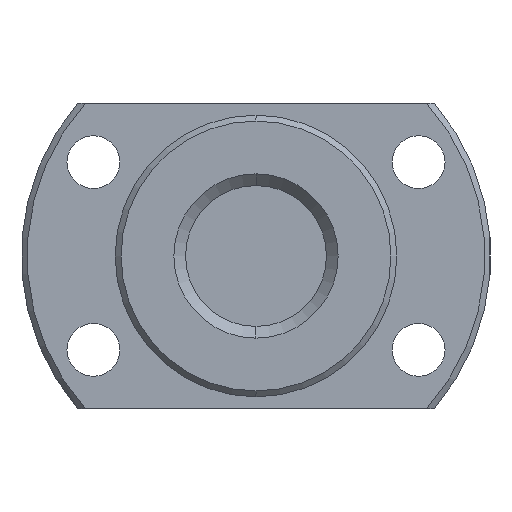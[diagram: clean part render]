
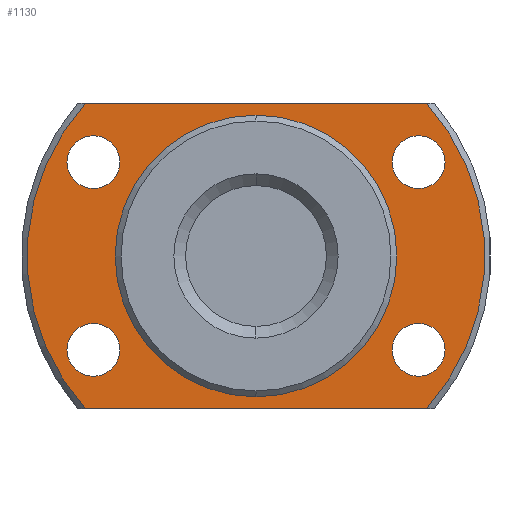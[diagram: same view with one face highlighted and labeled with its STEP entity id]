
A CAD part, left-side view. The second image highlights one B-rep face of the part: STEP entity #1130.
In plain terms, the highlighted planar face has unit normal (-1, 0, 0) as drawn and (1, 0, 0) by its records, which use the part's own axes.
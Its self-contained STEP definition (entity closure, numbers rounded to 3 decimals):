
#4 = CARTESIAN_POINT ( 'NONE',  ( 8., 12., 13. ) ) ;
#9 = EDGE_CURVE ( 'NONE', #1319, #1489, #1137, .T. ) ;
#21 = ORIENTED_EDGE ( 'NONE', *, *, #217, .T. ) ;
#28 = CIRCLE ( 'NONE', #780, 19.5 ) ;
#54 = CIRCLE ( 'NONE', #638, 2.25 ) ;
#98 = EDGE_CURVE ( 'NONE', #250, #1386, #937, .T. ) ;
#102 = DIRECTION ( 'NONE',  ( 0., 0., -1. ) ) ;
#142 = EDGE_CURVE ( 'NONE', #185, #614, #642, .T. ) ;
#149 = CARTESIAN_POINT ( 'NONE',  ( 8., 13.856, 8. ) ) ;
#163 = PLANE ( 'NONE',  #193 ) ;
#164 = EDGE_CURVE ( 'NONE', #918, #496, #1425, .T. ) ;
#167 = VERTEX_POINT ( 'NONE', #1632 ) ;
#178 = EDGE_LOOP ( 'NONE', ( #747, #579 ) ) ;
#185 = VERTEX_POINT ( 'NONE', #1244 ) ;
#193 = AXIS2_PLACEMENT_3D ( 'NONE', #1209, #1633, #1499 ) ;
#215 = DIRECTION ( 'NONE',  ( -1., 0., 0. ) ) ;
#217 = EDGE_CURVE ( 'NONE', #1386, #250, #1200, .T. ) ;
#239 = DIRECTION ( 'NONE',  ( -1., 0., 0. ) ) ;
#250 = VERTEX_POINT ( 'NONE', #756 ) ;
#254 = DIRECTION ( 'NONE',  ( 0., 0., -1. ) ) ;
#258 = DIRECTION ( 'NONE',  ( 0., -1., 0. ) ) ;
#290 = EDGE_CURVE ( 'NONE', #614, #185, #350, .T. ) ;
#307 = AXIS2_PLACEMENT_3D ( 'NONE', #149, #239, #1278 ) ;
#308 = DIRECTION ( 'NONE',  ( 0., 0., -1. ) ) ;
#334 = DIRECTION ( 'NONE',  ( 0., 0., -1. ) ) ;
#338 = DIRECTION ( 'NONE',  ( 0., 0., -1. ) ) ;
#350 = CIRCLE ( 'NONE', #1069, 12. ) ;
#353 = CARTESIAN_POINT ( 'NONE',  ( 8., -15.805, -6.875 ) ) ;
#355 = CARTESIAN_POINT ( 'NONE',  ( 8., 0., 0. ) ) ;
#356 = CARTESIAN_POINT ( 'NONE',  ( 8., -11.908, -9.125 ) ) ;
#362 = EDGE_CURVE ( 'NONE', #522, #167, #1152, .T. ) ;
#406 = CARTESIAN_POINT ( 'NONE',  ( 8., 11.908, 9.125 ) ) ;
#433 = DIRECTION ( 'NONE',  ( 0., 1., 0. ) ) ;
#435 = FACE_BOUND ( 'NONE', #1570, .T. ) ;
#446 = ORIENTED_EDGE ( 'NONE', *, *, #98, .T. ) ;
#463 = AXIS2_PLACEMENT_3D ( 'NONE', #492, #1535, #878 ) ;
#492 = CARTESIAN_POINT ( 'NONE',  ( 8., -13.856, 8. ) ) ;
#496 = VERTEX_POINT ( 'NONE', #957 ) ;
#502 = CARTESIAN_POINT ( 'NONE',  ( 8., -14.534, 13. ) ) ;
#506 = DIRECTION ( 'NONE',  ( 1., 0., 0. ) ) ;
#522 = VERTEX_POINT ( 'NONE', #1074 ) ;
#561 = AXIS2_PLACEMENT_3D ( 'NONE', #987, #215, #338 ) ;
#574 = AXIS2_PLACEMENT_3D ( 'NONE', #1690, #660, #1561 ) ;
#579 = ORIENTED_EDGE ( 'NONE', *, *, #9, .T. ) ;
#589 = ORIENTED_EDGE ( 'NONE', *, *, #1392, .T. ) ;
#606 = EDGE_LOOP ( 'NONE', ( #639, #737, #1686, #1268 ) ) ;
#613 = EDGE_CURVE ( 'NONE', #1217, #784, #669, .T. ) ;
#614 = VERTEX_POINT ( 'NONE', #716 ) ;
#638 = AXIS2_PLACEMENT_3D ( 'NONE', #1528, #885, #735 ) ;
#639 = ORIENTED_EDGE ( 'NONE', *, *, #362, .T. ) ;
#642 = CIRCLE ( 'NONE', #863, 12. ) ;
#660 = DIRECTION ( 'NONE',  ( 1., 0., 0. ) ) ;
#669 = CIRCLE ( 'NONE', #1497, 2.25 ) ;
#675 = EDGE_CURVE ( 'NONE', #893, #1260, #28, .T. ) ;
#716 = CARTESIAN_POINT ( 'NONE',  ( 8., 0., -12. ) ) ;
#729 = EDGE_LOOP ( 'NONE', ( #1572, #1429 ) ) ;
#734 = CARTESIAN_POINT ( 'NONE',  ( 8., 13.856, 8. ) ) ;
#735 = DIRECTION ( 'NONE',  ( 0., 0., -1. ) ) ;
#737 = ORIENTED_EDGE ( 'NONE', *, *, #1016, .T. ) ;
#747 = ORIENTED_EDGE ( 'NONE', *, *, #1312, .T. ) ;
#752 = EDGE_CURVE ( 'NONE', #496, #918, #1057, .T. ) ;
#756 = CARTESIAN_POINT ( 'NONE',  ( 8., -13.856, 10.25 ) ) ;
#780 = AXIS2_PLACEMENT_3D ( 'NONE', #1126, #1524, #334 ) ;
#784 = VERTEX_POINT ( 'NONE', #353 ) ;
#793 = DIRECTION ( 'NONE',  ( -1., 0., 0. ) ) ;
#803 = FACE_OUTER_BOUND ( 'NONE', #606, .T. ) ;
#816 = AXIS2_PLACEMENT_3D ( 'NONE', #734, #1251, #1363 ) ;
#863 = AXIS2_PLACEMENT_3D ( 'NONE', #355, #1235, #1402 ) ;
#878 = DIRECTION ( 'NONE',  ( 0., 0., -1. ) ) ;
#885 = DIRECTION ( 'NONE',  ( -1., 0., 0. ) ) ;
#893 = VERTEX_POINT ( 'NONE', #502 ) ;
#918 = VERTEX_POINT ( 'NONE', #406 ) ;
#919 = LINE ( 'NONE', #4, #1011 ) ;
#936 = LINE ( 'NONE', #1614, #1647 ) ;
#937 = CIRCLE ( 'NONE', #561, 2.25 ) ;
#957 = CARTESIAN_POINT ( 'NONE',  ( 8., 15.805, 6.875 ) ) ;
#987 = CARTESIAN_POINT ( 'NONE',  ( 8., -13.856, 8. ) ) ;
#1011 = VECTOR ( 'NONE', #258, 1000. ) ;
#1016 = EDGE_CURVE ( 'NONE', #167, #893, #919, .T. ) ;
#1053 = EDGE_LOOP ( 'NONE', ( #1589, #589 ) ) ;
#1057 = CIRCLE ( 'NONE', #307, 2.25 ) ;
#1069 = AXIS2_PLACEMENT_3D ( 'NONE', #1554, #506, #254 ) ;
#1074 = CARTESIAN_POINT ( 'NONE',  ( 8., 14.534, -13. ) ) ;
#1076 = DIRECTION ( 'NONE',  ( 0., 0., -1. ) ) ;
#1077 = FACE_BOUND ( 'NONE', #1689, .T. ) ;
#1107 = ORIENTED_EDGE ( 'NONE', *, *, #142, .F. ) ;
#1126 = CARTESIAN_POINT ( 'NONE',  ( 8., 0., 0. ) ) ;
#1130 = ADVANCED_FACE ( 'NONE', ( #803, #1077, #1345, #435, #1218, #1226 ), #163, .T. ) ;
#1137 = CIRCLE ( 'NONE', #1434, 2.25 ) ;
#1152 = CIRCLE ( 'NONE', #574, 19.5 ) ;
#1200 = CIRCLE ( 'NONE', #463, 2.25 ) ;
#1209 = CARTESIAN_POINT ( 'NONE',  ( 8., 12., 0. ) ) ;
#1211 = ORIENTED_EDGE ( 'NONE', *, *, #290, .F. ) ;
#1217 = VERTEX_POINT ( 'NONE', #356 ) ;
#1218 = FACE_BOUND ( 'NONE', #1053, .T. ) ;
#1224 = CARTESIAN_POINT ( 'NONE',  ( 8., 13.856, -5.75 ) ) ;
#1226 = FACE_BOUND ( 'NONE', #729, .T. ) ;
#1235 = DIRECTION ( 'NONE',  ( 1., 0., 0. ) ) ;
#1244 = CARTESIAN_POINT ( 'NONE',  ( 8., 0., 12. ) ) ;
#1245 = CARTESIAN_POINT ( 'NONE',  ( 8., -14.534, -13. ) ) ;
#1251 = DIRECTION ( 'NONE',  ( -1., 0., 0. ) ) ;
#1260 = VERTEX_POINT ( 'NONE', #1245 ) ;
#1268 = ORIENTED_EDGE ( 'NONE', *, *, #1532, .T. ) ;
#1278 = DIRECTION ( 'NONE',  ( 0., 0., -1. ) ) ;
#1312 = EDGE_CURVE ( 'NONE', #1489, #1319, #54, .T. ) ;
#1316 = CARTESIAN_POINT ( 'NONE',  ( 8., -13.856, 5.75 ) ) ;
#1319 = VERTEX_POINT ( 'NONE', #1394 ) ;
#1345 = FACE_BOUND ( 'NONE', #178, .T. ) ;
#1363 = DIRECTION ( 'NONE',  ( 0., 0., -1. ) ) ;
#1386 = VERTEX_POINT ( 'NONE', #1316 ) ;
#1392 = EDGE_CURVE ( 'NONE', #784, #1217, #1423, .T. ) ;
#1394 = CARTESIAN_POINT ( 'NONE',  ( 8., 13.856, -10.25 ) ) ;
#1402 = DIRECTION ( 'NONE',  ( 0., 0., -1. ) ) ;
#1423 = CIRCLE ( 'NONE', #1613, 2.25 ) ;
#1425 = CIRCLE ( 'NONE', #816, 2.25 ) ;
#1429 = ORIENTED_EDGE ( 'NONE', *, *, #752, .T. ) ;
#1434 = AXIS2_PLACEMENT_3D ( 'NONE', #1606, #1479, #1076 ) ;
#1479 = DIRECTION ( 'NONE',  ( -1., 0., 0. ) ) ;
#1489 = VERTEX_POINT ( 'NONE', #1224 ) ;
#1495 = CARTESIAN_POINT ( 'NONE',  ( 8., -13.856, -8. ) ) ;
#1497 = AXIS2_PLACEMENT_3D ( 'NONE', #1495, #1637, #308 ) ;
#1499 = DIRECTION ( 'NONE',  ( 0., 1., 0. ) ) ;
#1524 = DIRECTION ( 'NONE',  ( 1., 0., 0. ) ) ;
#1528 = CARTESIAN_POINT ( 'NONE',  ( 8., 13.856, -8. ) ) ;
#1532 = EDGE_CURVE ( 'NONE', #1260, #522, #936, .T. ) ;
#1535 = DIRECTION ( 'NONE',  ( -1., 0., 0. ) ) ;
#1554 = CARTESIAN_POINT ( 'NONE',  ( 8., 0., 0. ) ) ;
#1561 = DIRECTION ( 'NONE',  ( 0., 0., -1. ) ) ;
#1570 = EDGE_LOOP ( 'NONE', ( #21, #446 ) ) ;
#1572 = ORIENTED_EDGE ( 'NONE', *, *, #164, .T. ) ;
#1589 = ORIENTED_EDGE ( 'NONE', *, *, #613, .T. ) ;
#1606 = CARTESIAN_POINT ( 'NONE',  ( 8., 13.856, -8. ) ) ;
#1613 = AXIS2_PLACEMENT_3D ( 'NONE', #1677, #793, #102 ) ;
#1614 = CARTESIAN_POINT ( 'NONE',  ( 8., 12., -13. ) ) ;
#1632 = CARTESIAN_POINT ( 'NONE',  ( 8., 14.534, 13. ) ) ;
#1633 = DIRECTION ( 'NONE',  ( 1., 0., 0. ) ) ;
#1637 = DIRECTION ( 'NONE',  ( -1., 0., 0. ) ) ;
#1647 = VECTOR ( 'NONE', #433, 1000. ) ;
#1677 = CARTESIAN_POINT ( 'NONE',  ( 8., -13.856, -8. ) ) ;
#1686 = ORIENTED_EDGE ( 'NONE', *, *, #675, .T. ) ;
#1689 = EDGE_LOOP ( 'NONE', ( #1211, #1107 ) ) ;
#1690 = CARTESIAN_POINT ( 'NONE',  ( 8., 0., 0. ) ) ;
